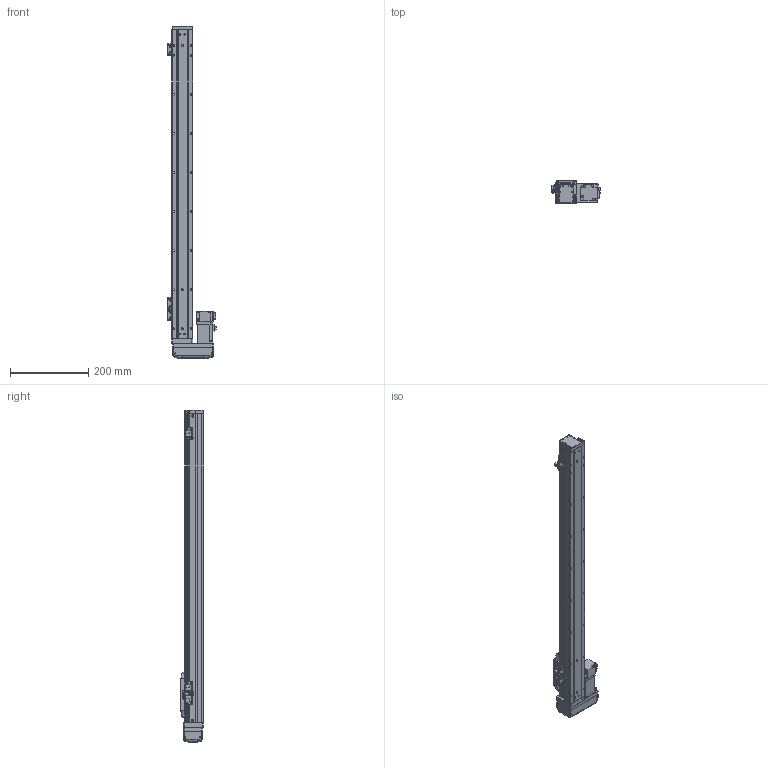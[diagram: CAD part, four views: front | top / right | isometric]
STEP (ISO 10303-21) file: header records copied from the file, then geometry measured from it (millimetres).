
FILE_DESCRIPTION (( 'STEP AP203' ), '1' );
FILE_NAME ('GTH5-650-BR-M10-C4.step', '2022-09-23T00:51:51', ( '微软用户' ), ( '微软中国' ), 'SwSTEP 2.0', 'SolidWorks 2020', '' );
FILE_SCHEMA (( 'CONFIG_CONTROL_DESIGN' ));
Length unit declared in the file: millimetre
Products named in the file (19): GTH50-001_650; GTH50-024; GTH5-650-BR-M10-C4; GBT 70.1-M4×16; GBT 70.1-M2.5×6; GTH50-003; GTH50-028; GTH50-006; GTH50-013; GTH50-022-1; GTH50-004; GTH50-023; HG-KR13; GBT 70.3-M3℅6; GBT 70.1-M3℅6; GTH50-027-1_BTHA50-027-2; BTH-M3X5X6; GBT96.1-2002 3×0.8; GTH50-026
Assembly tree (57 placements, depth 2):
  GTH5-650-BR-M10-C4
    GTH50-006
    GTH50-004
    GBT 70.3-M3℅6  x4
    BTH-M3X5X6  x8
    GTH50-001_650
    GBT 70.1-M4×16  x8
    GTH50-003
    GTH50-013
    GTH50-023  x3
    GBT 70.1-M3℅6  x12
    GBT96.1-2002 3×0.8  x6
    GTH50-024  x3
    GBT 70.1-M2.5×6  x2
    GTH50-028  x2
    GTH50-022-1
    HG-KR13
    GTH50-027-1_BTHA50-027-2
    GTH50-026
Bounding box: 123.6 x 60 x 850 mm (x, y, z)
Volume: 1918918.7 mm3; surface area: 317018.5 mm2
Topology: 59 solids, 59 shells, 2164 faces, 5028 edges, 3084 vertices
Faces by surface type: plane 1142, cylinder 593, cone 219, torus 162, bspline 40, sphere 8
Entity records: 40308 total; most frequent: CARTESIAN_POINT 7971, DIRECTION 6213, ORIENTED_EDGE 5970, EDGE_CURVE 2985, AXIS2_PLACEMENT_3D 2164, VERTEX_POINT 1886, VECTOR 1885, LINE 1885
